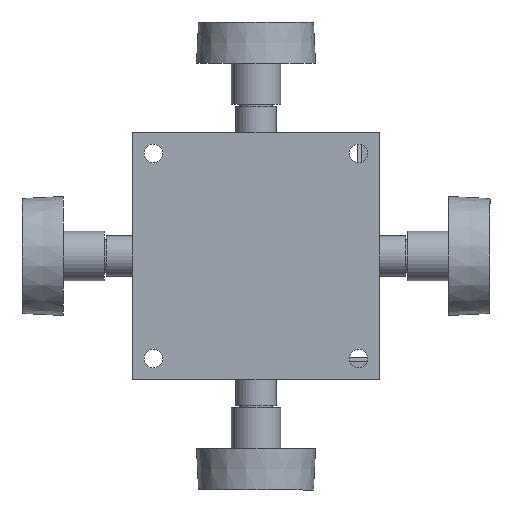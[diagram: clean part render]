
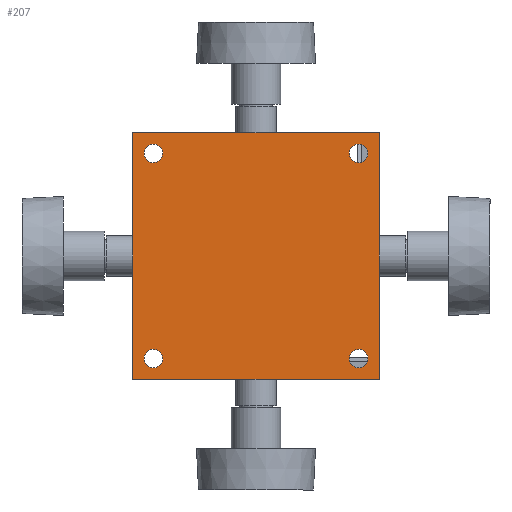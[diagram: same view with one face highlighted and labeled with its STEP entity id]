
A CAD part, front view. The second image highlights one B-rep face of the part: STEP entity #207.
In plain terms, the highlighted planar face has unit normal (0, -1, 0).
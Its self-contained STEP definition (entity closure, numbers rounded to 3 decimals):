
#182 = VERTEX_POINT ( 'NONE', #2679 ) ;
#194 = ORIENTED_EDGE ( 'NONE', *, *, #328, .T. ) ;
#195 = ORIENTED_EDGE ( 'NONE', *, *, #196, .T. ) ;
#196 = EDGE_CURVE ( 'NONE', #285, #284, #2477, .T. ) ;
#197 = ORIENTED_EDGE ( 'NONE', *, *, #283, .T. ) ;
#198 = EDGE_LOOP ( 'NONE', ( #199, #200, #201, #202 ) ) ;
#199 = ORIENTED_EDGE ( 'NONE', *, *, #349, .T. ) ;
#200 = ORIENTED_EDGE ( 'NONE', *, *, #246, .T. ) ;
#201 = ORIENTED_EDGE ( 'NONE', *, *, #235, .T. ) ;
#202 = ORIENTED_EDGE ( 'NONE', *, *, #302, .T. ) ;
#207 = ADVANCED_FACE ( 'NONE', ( #2470, #2465, #2464, #2463, #2462 ), #2461, .F. ) ;
#208 = EDGE_LOOP ( 'NONE', ( #209, #211 ) ) ;
#209 = ORIENTED_EDGE ( 'NONE', *, *, #210, .T. ) ;
#210 = EDGE_CURVE ( 'NONE', #182, #419, #2456, .T. ) ;
#211 = ORIENTED_EDGE ( 'NONE', *, *, #418, .T. ) ;
#212 = EDGE_LOOP ( 'NONE', ( #213, #215 ) ) ;
#213 = ORIENTED_EDGE ( 'NONE', *, *, #214, .T. ) ;
#214 = EDGE_CURVE ( 'NONE', #317, #316, #2629, .T. ) ;
#215 = ORIENTED_EDGE ( 'NONE', *, *, #315, .T. ) ;
#216 = EDGE_LOOP ( 'NONE', ( #217, #194 ) ) ;
#217 = ORIENTED_EDGE ( 'NONE', *, *, #218, .T. ) ;
#218 = EDGE_CURVE ( 'NONE', #330, #329, #2624, .T. ) ;
#219 = EDGE_LOOP ( 'NONE', ( #195, #197 ) ) ;
#235 = EDGE_CURVE ( 'NONE', #236, #303, #2651, .T. ) ;
#236 = VERTEX_POINT ( 'NONE', #2714 ) ;
#246 = EDGE_CURVE ( 'NONE', #351, #236, #2698, .T. ) ;
#283 = EDGE_CURVE ( 'NONE', #284, #285, #2588, .T. ) ;
#284 = VERTEX_POINT ( 'NONE', #2645 ) ;
#285 = VERTEX_POINT ( 'NONE', #2644 ) ;
#302 = EDGE_CURVE ( 'NONE', #303, #350, #2566, .T. ) ;
#303 = VERTEX_POINT ( 'NONE', #2562 ) ;
#315 = EDGE_CURVE ( 'NONE', #316, #317, #2519, .T. ) ;
#316 = VERTEX_POINT ( 'NONE', #2514 ) ;
#317 = VERTEX_POINT ( 'NONE', #2513 ) ;
#328 = EDGE_CURVE ( 'NONE', #329, #330, #2720, .T. ) ;
#329 = VERTEX_POINT ( 'NONE', #2715 ) ;
#330 = VERTEX_POINT ( 'NONE', #2836 ) ;
#349 = EDGE_CURVE ( 'NONE', #350, #351, #2789, .T. ) ;
#350 = VERTEX_POINT ( 'NONE', #2785 ) ;
#351 = VERTEX_POINT ( 'NONE', #2784 ) ;
#418 = EDGE_CURVE ( 'NONE', #419, #182, #2754, .T. ) ;
#419 = VERTEX_POINT ( 'NONE', #2750 ) ;
#2455 = CARTESIAN_POINT ( 'NONE',  ( -25., 0., 25. ) ) ;
#2456 = CIRCLE ( 'NONE', #2632, 2.25 ) ;
#2457 = DIRECTION ( 'NONE',  ( -1., 0., 0. ) ) ;
#2458 = DIRECTION ( 'NONE',  ( 0., 1., 0. ) ) ;
#2459 = CARTESIAN_POINT ( 'NONE',  ( 30., 0., 30. ) ) ;
#2460 = AXIS2_PLACEMENT_3D ( 'NONE', #2459, #2458, #2457 ) ;
#2461 = PLANE ( 'NONE',  #2460 ) ;
#2462 = FACE_OUTER_BOUND ( 'NONE', #198, .T. ) ;
#2463 = FACE_BOUND ( 'NONE', #219, .T. ) ;
#2464 = FACE_BOUND ( 'NONE', #216, .T. ) ;
#2465 = FACE_BOUND ( 'NONE', #212, .T. ) ;
#2470 = FACE_BOUND ( 'NONE', #208, .T. ) ;
#2473 = DIRECTION ( 'NONE',  ( -1., 0., 0. ) ) ;
#2474 = DIRECTION ( 'NONE',  ( 0., 1., 0. ) ) ;
#2475 = CARTESIAN_POINT ( 'NONE',  ( -25., 0., -25. ) ) ;
#2476 = AXIS2_PLACEMENT_3D ( 'NONE', #2475, #2474, #2473 ) ;
#2477 = CIRCLE ( 'NONE', #2476, 2.25 ) ;
#2513 = CARTESIAN_POINT ( 'NONE',  ( 22.75, 0., 25. ) ) ;
#2514 = CARTESIAN_POINT ( 'NONE',  ( 27.25, 0., 25. ) ) ;
#2515 = DIRECTION ( 'NONE',  ( -1., 0., 0. ) ) ;
#2516 = DIRECTION ( 'NONE',  ( 0., 1., 0. ) ) ;
#2517 = CARTESIAN_POINT ( 'NONE',  ( 25., 0., 25. ) ) ;
#2518 = AXIS2_PLACEMENT_3D ( 'NONE', #2517, #2516, #2515 ) ;
#2519 = CIRCLE ( 'NONE', #2518, 2.25 ) ;
#2562 = CARTESIAN_POINT ( 'NONE',  ( -30., 0., -30. ) ) ;
#2563 = DIRECTION ( 'NONE',  ( 1., 0., 0. ) ) ;
#2564 = VECTOR ( 'NONE', #2563, 1000. ) ;
#2565 = CARTESIAN_POINT ( 'NONE',  ( 30., 0., -30. ) ) ;
#2566 = LINE ( 'NONE', #2565, #2564 ) ;
#2587 = AXIS2_PLACEMENT_3D ( 'NONE', #2593, #2647, #2646 ) ;
#2588 = CIRCLE ( 'NONE', #2587, 2.25 ) ;
#2593 = CARTESIAN_POINT ( 'NONE',  ( -25., 0., -25. ) ) ;
#2620 = DIRECTION ( 'NONE',  ( -1., 0., 0. ) ) ;
#2621 = DIRECTION ( 'NONE',  ( 0., 1., 0. ) ) ;
#2622 = CARTESIAN_POINT ( 'NONE',  ( 25., 0., -25. ) ) ;
#2623 = AXIS2_PLACEMENT_3D ( 'NONE', #2622, #2621, #2620 ) ;
#2624 = CIRCLE ( 'NONE', #2623, 2.25 ) ;
#2625 = DIRECTION ( 'NONE',  ( -1., 0., 0. ) ) ;
#2626 = DIRECTION ( 'NONE',  ( 0., 1., 0. ) ) ;
#2627 = CARTESIAN_POINT ( 'NONE',  ( 25., 0., 25. ) ) ;
#2628 = AXIS2_PLACEMENT_3D ( 'NONE', #2627, #2626, #2625 ) ;
#2629 = CIRCLE ( 'NONE', #2628, 2.25 ) ;
#2630 = DIRECTION ( 'NONE',  ( -1., 0., 0. ) ) ;
#2631 = DIRECTION ( 'NONE',  ( 0., 1., 0. ) ) ;
#2632 = AXIS2_PLACEMENT_3D ( 'NONE', #2455, #2631, #2630 ) ;
#2644 = CARTESIAN_POINT ( 'NONE',  ( -27.25, 0., -25. ) ) ;
#2645 = CARTESIAN_POINT ( 'NONE',  ( -22.75, 0., -25. ) ) ;
#2646 = DIRECTION ( 'NONE',  ( -1., 0., 0. ) ) ;
#2647 = DIRECTION ( 'NONE',  ( 0., 1., 0. ) ) ;
#2648 = DIRECTION ( 'NONE',  ( 0., 0., -1. ) ) ;
#2649 = VECTOR ( 'NONE', #2648, 1000. ) ;
#2650 = CARTESIAN_POINT ( 'NONE',  ( -30., 0., 30. ) ) ;
#2651 = LINE ( 'NONE', #2650, #2649 ) ;
#2679 = CARTESIAN_POINT ( 'NONE',  ( -27.25, 0., 25. ) ) ;
#2695 = DIRECTION ( 'NONE',  ( -1., 0., 0. ) ) ;
#2696 = VECTOR ( 'NONE', #2695, 1000. ) ;
#2697 = CARTESIAN_POINT ( 'NONE',  ( 30., 0., 30. ) ) ;
#2698 = LINE ( 'NONE', #2697, #2696 ) ;
#2714 = CARTESIAN_POINT ( 'NONE',  ( -30., 0., 30. ) ) ;
#2715 = CARTESIAN_POINT ( 'NONE',  ( 27.25, 0., -25. ) ) ;
#2716 = DIRECTION ( 'NONE',  ( -1., 0., 0. ) ) ;
#2717 = DIRECTION ( 'NONE',  ( 0., 1., 0. ) ) ;
#2718 = CARTESIAN_POINT ( 'NONE',  ( 25., 0., -25. ) ) ;
#2719 = AXIS2_PLACEMENT_3D ( 'NONE', #2718, #2717, #2716 ) ;
#2720 = CIRCLE ( 'NONE', #2719, 2.25 ) ;
#2750 = CARTESIAN_POINT ( 'NONE',  ( -22.75, 0., 25. ) ) ;
#2751 = DIRECTION ( 'NONE',  ( -1., 0., 0. ) ) ;
#2752 = DIRECTION ( 'NONE',  ( 0., 1., 0. ) ) ;
#2753 = AXIS2_PLACEMENT_3D ( 'NONE', #2760, #2752, #2751 ) ;
#2754 = CIRCLE ( 'NONE', #2753, 2.25 ) ;
#2760 = CARTESIAN_POINT ( 'NONE',  ( -25., 0., 25. ) ) ;
#2784 = CARTESIAN_POINT ( 'NONE',  ( 30., 0., 30. ) ) ;
#2785 = CARTESIAN_POINT ( 'NONE',  ( 30., 0., -30. ) ) ;
#2786 = DIRECTION ( 'NONE',  ( 0., 0., 1. ) ) ;
#2787 = VECTOR ( 'NONE', #2786, 1000. ) ;
#2788 = CARTESIAN_POINT ( 'NONE',  ( 30., 0., 30. ) ) ;
#2789 = LINE ( 'NONE', #2788, #2787 ) ;
#2836 = CARTESIAN_POINT ( 'NONE',  ( 22.75, 0., -25. ) ) ;
